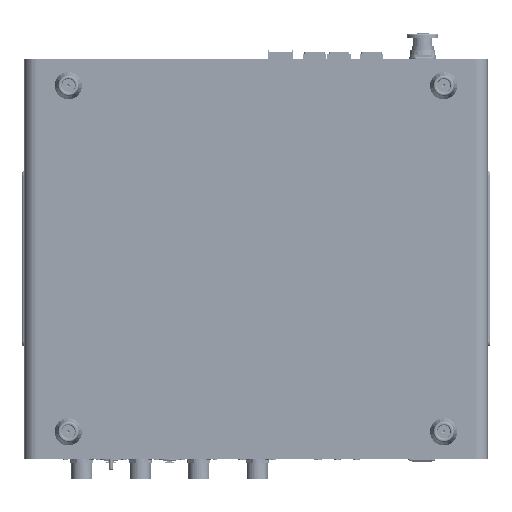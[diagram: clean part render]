
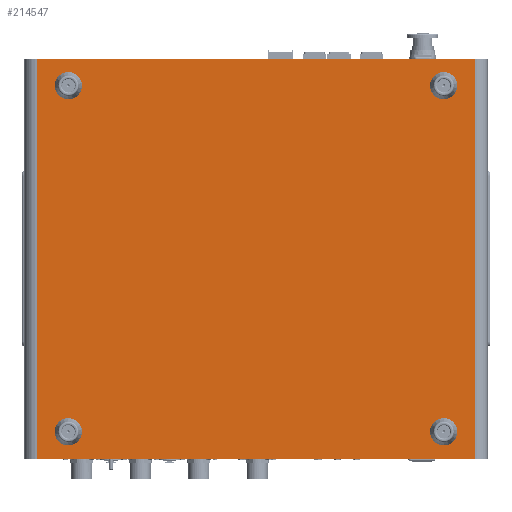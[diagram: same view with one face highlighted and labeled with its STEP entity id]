
A CAD part, front view. The second image highlights one B-rep face of the part: STEP entity #214547.
In plain terms, the highlighted planar face has unit normal (0, -1, 0).
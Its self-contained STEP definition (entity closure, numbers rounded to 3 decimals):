
#18711 = FACE_OUTER_BOUND ( 'NONE', #221870, .T. ) ;
#18713 = FACE_BOUND ( 'NONE', #221864, .T. ) ;
#18717 = FACE_BOUND ( 'NONE', #221836, .T. ) ;
#18719 = FACE_BOUND ( 'NONE', #221867, .T. ) ;
#18721 = FACE_BOUND ( 'NONE', #221848, .T. ) ;
#29401 = CIRCLE ( 'NONE', #74783, 2.75 ) ;
#29420 = LINE ( 'NONE', #72819, #29452 ) ;
#29428 = LINE ( 'NONE', #72783, #29456 ) ;
#29432 = LINE ( 'NONE', #72800, #29469 ) ;
#29436 = CIRCLE ( 'NONE', #74784, 2.75 ) ;
#29441 = CIRCLE ( 'NONE', #74785, 2.75 ) ;
#29447 = CIRCLE ( 'NONE', #74786, 2.75 ) ;
#29452 = VECTOR ( 'NONE', #72792, 1000. ) ;
#29456 = VECTOR ( 'NONE', #72817, 1000. ) ;
#29460 = LINE ( 'NONE', #72809, #29477 ) ;
#29469 = VECTOR ( 'NONE', #72821, 1000. ) ;
#29477 = VECTOR ( 'NONE', #72824, 1000. ) ;
#47456 = EDGE_CURVE ( 'NONE', #187516, #187516, #29401, .T. ) ;
#47459 = EDGE_CURVE ( 'NONE', #187518, #187518, #29436, .T. ) ;
#47462 = EDGE_CURVE ( 'NONE', #187521, #187521, #29441, .T. ) ;
#47464 = EDGE_CURVE ( 'NONE', #187523, #187523, #29447, .T. ) ;
#47468 = EDGE_CURVE ( 'NONE', #255625, #255591, #29428, .T. ) ;
#47472 = EDGE_CURVE ( 'NONE', #255625, #255600, #29420, .T. ) ;
#47475 = EDGE_CURVE ( 'NONE', #255640, #255600, #29432, .T. ) ;
#47478 = EDGE_CURVE ( 'NONE', #255591, #255640, #29460, .T. ) ;
#61263 = CARTESIAN_POINT ( 'NONE',  ( -225., -2.5, 205. ) ) ;
#61322 = CARTESIAN_POINT ( 'NONE',  ( 225., -2.5, -205. ) ) ;
#72783 = CARTESIAN_POINT ( 'NONE',  ( -225., -2.5, -205. ) ) ;
#72785 = CARTESIAN_POINT ( 'NONE',  ( -192.5, -2.5, 177.5 ) ) ;
#72787 = DIRECTION ( 'NONE',  ( 0., 1., 0. ) ) ;
#72789 = DIRECTION ( 'NONE',  ( 0., 0., 1. ) ) ;
#72792 = DIRECTION ( 'NONE',  ( 1., 0., 0. ) ) ;
#72794 = CARTESIAN_POINT ( 'NONE',  ( 192.5, -2.5, 177.5 ) ) ;
#72796 = DIRECTION ( 'NONE',  ( 0., 1., 0. ) ) ;
#72798 = DIRECTION ( 'NONE',  ( 0., 0., 1. ) ) ;
#72800 = CARTESIAN_POINT ( 'NONE',  ( 225., -2.5, 205. ) ) ;
#72802 = CARTESIAN_POINT ( 'NONE',  ( 192.5, -2.5, -177.5 ) ) ;
#72804 = DIRECTION ( 'NONE',  ( 0., 1., 0. ) ) ;
#72806 = DIRECTION ( 'NONE',  ( 0., 0., 1. ) ) ;
#72809 = CARTESIAN_POINT ( 'NONE',  ( -235., -2.5, 205. ) ) ;
#72811 = CARTESIAN_POINT ( 'NONE',  ( -192.5, -2.5, -177.5 ) ) ;
#72813 = DIRECTION ( 'NONE',  ( 0., 1., 0. ) ) ;
#72815 = DIRECTION ( 'NONE',  ( 0., 0., 1. ) ) ;
#72817 = DIRECTION ( 'NONE',  ( 0., 0., 1. ) ) ;
#72819 = CARTESIAN_POINT ( 'NONE',  ( -235., -2.5, -205. ) ) ;
#72821 = DIRECTION ( 'NONE',  ( 0., 0., -1. ) ) ;
#72824 = DIRECTION ( 'NONE',  ( 1., 0., 0. ) ) ;
#74783 = AXIS2_PLACEMENT_3D ( 'NONE', #72785, #72787, #72789 ) ;
#74784 = AXIS2_PLACEMENT_3D ( 'NONE', #72794, #72796, #72798 ) ;
#74785 = AXIS2_PLACEMENT_3D ( 'NONE', #72802, #72804, #72806 ) ;
#74786 = AXIS2_PLACEMENT_3D ( 'NONE', #72811, #72813, #72815 ) ;
#81728 = CARTESIAN_POINT ( 'NONE',  ( -235., -2.5, 205. ) ) ;
#81730 = DIRECTION ( 'NONE',  ( 0., 1., 0. ) ) ;
#81733 = PLANE ( 'NONE',  #229775 ) ;
#81736 = DIRECTION ( 'NONE',  ( 0., 0., 1. ) ) ;
#151913 = CARTESIAN_POINT ( 'NONE',  ( -192.5, -2.5, 180.25 ) ) ;
#151916 = CARTESIAN_POINT ( 'NONE',  ( 192.5, -2.5, 180.25 ) ) ;
#151918 = CARTESIAN_POINT ( 'NONE',  ( 192.5, -2.5, -174.75 ) ) ;
#151922 = CARTESIAN_POINT ( 'NONE',  ( -192.5, -2.5, -174.75 ) ) ;
#169366 = CARTESIAN_POINT ( 'NONE',  ( -225., -2.5, -205. ) ) ;
#169450 = CARTESIAN_POINT ( 'NONE',  ( 225., -2.5, 205. ) ) ;
#187516 = VERTEX_POINT ( 'NONE', #151913 ) ;
#187518 = VERTEX_POINT ( 'NONE', #151916 ) ;
#187521 = VERTEX_POINT ( 'NONE', #151918 ) ;
#187523 = VERTEX_POINT ( 'NONE', #151922 ) ;
#214547 = ADVANCED_FACE ( 'NONE', ( #18717, #18721, #18713, #18719, #18711 ), #81733, .F. ) ;
#221836 = EDGE_LOOP ( 'NONE', ( #270484 ) ) ;
#221848 = EDGE_LOOP ( 'NONE', ( #270478 ) ) ;
#221864 = EDGE_LOOP ( 'NONE', ( #270721 ) ) ;
#221867 = EDGE_LOOP ( 'NONE', ( #270715 ) ) ;
#221870 = EDGE_LOOP ( 'NONE', ( #270709, #270704, #270698, #270693 ) ) ;
#229775 = AXIS2_PLACEMENT_3D ( 'NONE', #81728, #81730, #81736 ) ;
#255591 = VERTEX_POINT ( 'NONE', #61263 ) ;
#255600 = VERTEX_POINT ( 'NONE', #61322 ) ;
#255625 = VERTEX_POINT ( 'NONE', #169366 ) ;
#255640 = VERTEX_POINT ( 'NONE', #169450 ) ;
#270478 = ORIENTED_EDGE ( 'NONE', *, *, #47459, .T. ) ;
#270484 = ORIENTED_EDGE ( 'NONE', *, *, #47456, .T. ) ;
#270693 = ORIENTED_EDGE ( 'NONE', *, *, #47478, .F. ) ;
#270698 = ORIENTED_EDGE ( 'NONE', *, *, #47475, .F. ) ;
#270704 = ORIENTED_EDGE ( 'NONE', *, *, #47472, .T. ) ;
#270709 = ORIENTED_EDGE ( 'NONE', *, *, #47468, .F. ) ;
#270715 = ORIENTED_EDGE ( 'NONE', *, *, #47464, .T. ) ;
#270721 = ORIENTED_EDGE ( 'NONE', *, *, #47462, .T. ) ;
